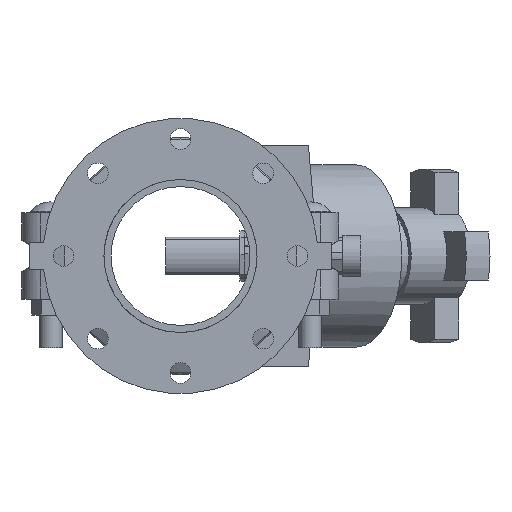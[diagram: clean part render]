
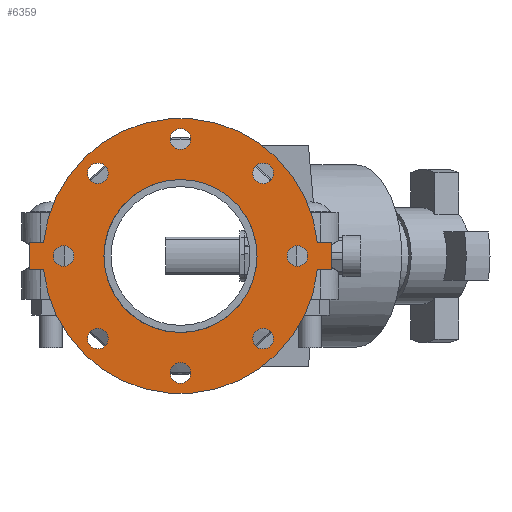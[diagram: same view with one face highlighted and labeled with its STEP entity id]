
A CAD part, front view. The second image highlights one B-rep face of the part: STEP entity #6359.
In plain terms, the highlighted planar face has unit normal (0, -1, 0) as drawn and (0, 0, 1) by its records, which use the part's own axes.
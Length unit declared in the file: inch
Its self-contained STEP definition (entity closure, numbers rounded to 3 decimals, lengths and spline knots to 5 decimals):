
#209=FACE_BOUND('',#843,.T.);
#210=FACE_BOUND('',#844,.T.);
#211=FACE_BOUND('',#845,.T.);
#212=FACE_BOUND('',#846,.T.);
#213=FACE_BOUND('',#847,.T.);
#214=FACE_BOUND('',#848,.T.);
#215=FACE_BOUND('',#849,.T.);
#216=FACE_BOUND('',#850,.T.);
#217=FACE_BOUND('',#851,.T.);
#280=PLANE('',#6926);
#489=FACE_OUTER_BOUND('',#842,.T.);
#842=EDGE_LOOP('',(#4145,#4146,#4147,#4148,#4149,#4150,#4151,#4152));
#843=EDGE_LOOP('',(#4153));
#844=EDGE_LOOP('',(#4154));
#845=EDGE_LOOP('',(#4155));
#846=EDGE_LOOP('',(#4156));
#847=EDGE_LOOP('',(#4157));
#848=EDGE_LOOP('',(#4158));
#849=EDGE_LOOP('',(#4159));
#850=EDGE_LOOP('',(#4160));
#851=EDGE_LOOP('',(#4161,#4162));
#1252=LINE('',#9754,#1722);
#1253=LINE('',#9757,#1723);
#1256=LINE('',#9762,#1726);
#1257=LINE('',#9765,#1727);
#1259=LINE('',#9768,#1729);
#1260=LINE('',#9770,#1730);
#1722=VECTOR('',#7750,0.3937);
#1723=VECTOR('',#7753,0.3937);
#1726=VECTOR('',#7758,0.3937);
#1727=VECTOR('',#7761,0.3937);
#1729=VECTOR('',#7765,0.3937);
#1730=VECTOR('',#7768,0.3937);
#2172=CIRCLE('',#6885,0.375);
#2174=CIRCLE('',#6888,0.375);
#2176=CIRCLE('',#6891,0.375);
#2178=CIRCLE('',#6894,0.375);
#2180=CIRCLE('',#6897,0.375);
#2182=CIRCLE('',#6900,0.375);
#2184=CIRCLE('',#6903,0.375);
#2186=CIRCLE('',#6906,0.375);
#2192=CIRCLE('',#6914,5.);
#2193=CIRCLE('',#6916,2.7815);
#2194=CIRCLE('',#6917,2.7815);
#2195=CIRCLE('',#6919,5.);
#2538=VERTEX_POINT('',#9665);
#2540=VERTEX_POINT('',#9671);
#2542=VERTEX_POINT('',#9677);
#2544=VERTEX_POINT('',#9683);
#2546=VERTEX_POINT('',#9689);
#2548=VERTEX_POINT('',#9695);
#2550=VERTEX_POINT('',#9701);
#2552=VERTEX_POINT('',#9707);
#2564=VERTEX_POINT('',#9734);
#2565=VERTEX_POINT('',#9736);
#2566=VERTEX_POINT('',#9740);
#2567=VERTEX_POINT('',#9742);
#2568=VERTEX_POINT('',#9746);
#2569=VERTEX_POINT('',#9748);
#2570=VERTEX_POINT('',#9752);
#2571=VERTEX_POINT('',#9756);
#2572=VERTEX_POINT('',#9760);
#2573=VERTEX_POINT('',#9764);
#3152=EDGE_CURVE('',#2538,#2538,#2172,.T.);
#3155=EDGE_CURVE('',#2540,#2540,#2174,.T.);
#3158=EDGE_CURVE('',#2542,#2542,#2176,.T.);
#3161=EDGE_CURVE('',#2544,#2544,#2178,.T.);
#3164=EDGE_CURVE('',#2546,#2546,#2180,.T.);
#3167=EDGE_CURVE('',#2548,#2548,#2182,.T.);
#3170=EDGE_CURVE('',#2550,#2550,#2184,.T.);
#3173=EDGE_CURVE('',#2552,#2552,#2186,.T.);
#3188=EDGE_CURVE('',#2564,#2565,#2192,.T.);
#3190=EDGE_CURVE('',#2567,#2566,#2193,.T.);
#3191=EDGE_CURVE('',#2566,#2567,#2194,.T.);
#3193=EDGE_CURVE('',#2569,#2568,#2195,.T.);
#3196=EDGE_CURVE('',#2565,#2570,#1252,.T.);
#3197=EDGE_CURVE('',#2571,#2569,#1253,.T.);
#3200=EDGE_CURVE('',#2568,#2572,#1256,.T.);
#3201=EDGE_CURVE('',#2573,#2564,#1257,.T.);
#3203=EDGE_CURVE('',#2572,#2573,#1259,.T.);
#3204=EDGE_CURVE('',#2570,#2571,#1260,.T.);
#4145=ORIENTED_EDGE('',*,*,#3200,.T.);
#4146=ORIENTED_EDGE('',*,*,#3203,.T.);
#4147=ORIENTED_EDGE('',*,*,#3201,.T.);
#4148=ORIENTED_EDGE('',*,*,#3188,.T.);
#4149=ORIENTED_EDGE('',*,*,#3196,.T.);
#4150=ORIENTED_EDGE('',*,*,#3204,.T.);
#4151=ORIENTED_EDGE('',*,*,#3197,.T.);
#4152=ORIENTED_EDGE('',*,*,#3193,.T.);
#4153=ORIENTED_EDGE('',*,*,#3152,.T.);
#4154=ORIENTED_EDGE('',*,*,#3155,.T.);
#4155=ORIENTED_EDGE('',*,*,#3158,.T.);
#4156=ORIENTED_EDGE('',*,*,#3161,.T.);
#4157=ORIENTED_EDGE('',*,*,#3164,.T.);
#4158=ORIENTED_EDGE('',*,*,#3167,.T.);
#4159=ORIENTED_EDGE('',*,*,#3170,.T.);
#4160=ORIENTED_EDGE('',*,*,#3173,.T.);
#4161=ORIENTED_EDGE('',*,*,#3190,.T.);
#4162=ORIENTED_EDGE('',*,*,#3191,.T.);
#6359=ADVANCED_FACE('',(#489,#209,#210,#211,#212,#213,#214,#215,#216,#217),
#280,.T.);
#6885=AXIS2_PLACEMENT_3D('',#9666,#7658,#7659);
#6888=AXIS2_PLACEMENT_3D('',#9672,#7665,#7666);
#6891=AXIS2_PLACEMENT_3D('',#9678,#7672,#7673);
#6894=AXIS2_PLACEMENT_3D('',#9684,#7679,#7680);
#6897=AXIS2_PLACEMENT_3D('',#9690,#7686,#7687);
#6900=AXIS2_PLACEMENT_3D('',#9696,#7693,#7694);
#6903=AXIS2_PLACEMENT_3D('',#9702,#7700,#7701);
#6906=AXIS2_PLACEMENT_3D('',#9708,#7707,#7708);
#6914=AXIS2_PLACEMENT_3D('',#9738,#7732,#7733);
#6916=AXIS2_PLACEMENT_3D('',#9743,#7737,#7738);
#6917=AXIS2_PLACEMENT_3D('',#9744,#7739,#7740);
#6919=AXIS2_PLACEMENT_3D('',#9749,#7744,#7745);
#6926=AXIS2_PLACEMENT_3D('',#9771,#7769,#7770);
#7658=DIRECTION('center_axis',(0.,0.,-1.));
#7659=DIRECTION('ref_axis',(-0.707,0.707,0.));
#7665=DIRECTION('center_axis',(0.,0.,-1.));
#7666=DIRECTION('ref_axis',(0.,1.,0.));
#7672=DIRECTION('center_axis',(0.,0.,-1.));
#7673=DIRECTION('ref_axis',(0.707,0.707,0.));
#7679=DIRECTION('center_axis',(0.,0.,-1.));
#7680=DIRECTION('ref_axis',(1.,0.,0.));
#7686=DIRECTION('center_axis',(0.,0.,-1.));
#7687=DIRECTION('ref_axis',(0.707,-0.707,0.));
#7693=DIRECTION('center_axis',(0.,0.,-1.));
#7694=DIRECTION('ref_axis',(0.,-1.,0.));
#7700=DIRECTION('center_axis',(0.,0.,-1.));
#7701=DIRECTION('ref_axis',(-0.707,-0.707,0.));
#7707=DIRECTION('center_axis',(0.,0.,-1.));
#7708=DIRECTION('ref_axis',(-1.,0.,0.));
#7732=DIRECTION('center_axis',(0.,0.,1.));
#7733=DIRECTION('ref_axis',(-1.,0.,0.));
#7737=DIRECTION('center_axis',(0.,0.,-1.));
#7738=DIRECTION('ref_axis',(-1.,0.,0.));
#7739=DIRECTION('center_axis',(0.,0.,-1.));
#7740=DIRECTION('ref_axis',(-1.,0.,0.));
#7744=DIRECTION('center_axis',(0.,0.,1.));
#7745=DIRECTION('ref_axis',(-1.,0.,0.));
#7750=DIRECTION('',(0.,1.,0.));
#7753=DIRECTION('',(0.,-1.,0.));
#7758=DIRECTION('',(0.,-1.,0.));
#7761=DIRECTION('',(0.,1.,0.));
#7765=DIRECTION('',(1.,0.,0.));
#7768=DIRECTION('',(-1.,0.,0.));
#7769=DIRECTION('center_axis',(0.,0.,1.));
#7770=DIRECTION('ref_axis',(1.,0.,0.));
#9665=CARTESIAN_POINT('',(-2.74004,2.74004,0.5));
#9666=CARTESIAN_POINT('Origin',(-3.0052,3.0052,0.5));
#9671=CARTESIAN_POINT('',(0.,3.875,0.5));
#9672=CARTESIAN_POINT('Origin',(0.,4.25,0.5));
#9677=CARTESIAN_POINT('',(2.74004,2.74004,0.5));
#9678=CARTESIAN_POINT('Origin',(3.0052,3.0052,0.5));
#9683=CARTESIAN_POINT('',(3.875,0.,0.5));
#9684=CARTESIAN_POINT('Origin',(4.25,0.,0.5));
#9689=CARTESIAN_POINT('',(2.74004,-2.74004,0.5));
#9690=CARTESIAN_POINT('Origin',(3.0052,-3.0052,0.5));
#9695=CARTESIAN_POINT('',(0.,-3.875,0.5));
#9696=CARTESIAN_POINT('Origin',(0.,-4.25,0.5));
#9701=CARTESIAN_POINT('',(-2.74004,-2.74004,0.5));
#9702=CARTESIAN_POINT('Origin',(-3.0052,-3.0052,0.5));
#9707=CARTESIAN_POINT('',(-3.875,0.,0.5));
#9708=CARTESIAN_POINT('Origin',(-4.25,0.,0.5));
#9734=CARTESIAN_POINT('',(0.5,-4.97494,0.5));
#9736=CARTESIAN_POINT('',(0.5,4.97494,0.5));
#9738=CARTESIAN_POINT('Origin',(0.,0.,0.5));
#9740=CARTESIAN_POINT('',(2.7815,0.,0.5));
#9742=CARTESIAN_POINT('',(0.5,2.73619,0.5));
#9743=CARTESIAN_POINT('Origin',(0.,0.,0.5));
#9744=CARTESIAN_POINT('Origin',(0.,0.,0.5));
#9746=CARTESIAN_POINT('',(-0.5,-4.97494,0.5));
#9748=CARTESIAN_POINT('',(-0.5,4.97494,0.5));
#9749=CARTESIAN_POINT('Origin',(0.,0.,0.5));
#9752=CARTESIAN_POINT('',(0.5,5.5,0.5));
#9754=CARTESIAN_POINT('',(0.5,5.5,0.5));
#9756=CARTESIAN_POINT('',(-0.5,5.5,0.5));
#9757=CARTESIAN_POINT('',(-0.5,-5.5,0.5));
#9760=CARTESIAN_POINT('',(-0.5,-5.5,0.5));
#9762=CARTESIAN_POINT('',(-0.5,-5.5,0.5));
#9764=CARTESIAN_POINT('',(0.5,-5.5,0.5));
#9765=CARTESIAN_POINT('',(0.5,5.5,0.5));
#9768=CARTESIAN_POINT('',(0.5,-5.5,0.5));
#9770=CARTESIAN_POINT('',(-0.5,5.5,0.5));
#9771=CARTESIAN_POINT('Origin',(0.,0.,0.5));
